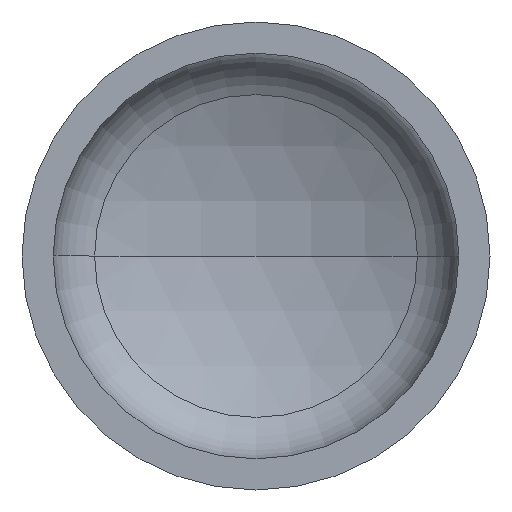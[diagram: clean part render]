
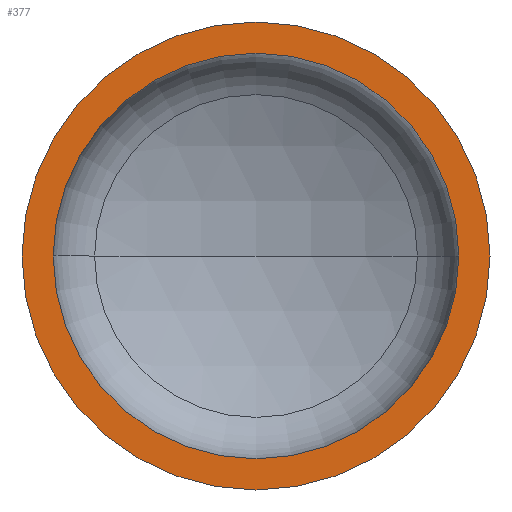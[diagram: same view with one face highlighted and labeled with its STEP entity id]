
A CAD part, front view. The second image highlights one B-rep face of the part: STEP entity #377.
In plain terms, the highlighted planar face has unit normal (0, -1, 0).
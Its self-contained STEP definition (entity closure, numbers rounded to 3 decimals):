
#7 = EDGE_LOOP ( 'NONE', ( #149, #351 ) ) ;
#17 = AXIS2_PLACEMENT_3D ( 'NONE', #408, #143, #276 ) ;
#21 = ORIENTED_EDGE ( 'NONE', *, *, #171, .F. ) ;
#23 = VERTEX_POINT ( 'NONE', #273 ) ;
#35 = VERTEX_POINT ( 'NONE', #243 ) ;
#38 = EDGE_LOOP ( 'NONE', ( #21, #48 ) ) ;
#48 = ORIENTED_EDGE ( 'NONE', *, *, #368, .F. ) ;
#62 = VERTEX_POINT ( 'NONE', #254 ) ;
#91 = VERTEX_POINT ( 'NONE', #245 ) ;
#109 = DIRECTION ( 'NONE',  ( 0., 1., 0. ) ) ;
#116 = CIRCLE ( 'NONE', #130, 390. ) ;
#130 = AXIS2_PLACEMENT_3D ( 'NONE', #223, #219, #220 ) ;
#134 = AXIS2_PLACEMENT_3D ( 'NONE', #315, #309, #233 ) ;
#136 = CIRCLE ( 'NONE', #173, 450. ) ;
#143 = DIRECTION ( 'NONE',  ( 0., -1., 0. ) ) ;
#147 = FACE_BOUND ( 'NONE', #38, .T. ) ;
#149 = ORIENTED_EDGE ( 'NONE', *, *, #385, .T. ) ;
#169 = EDGE_CURVE ( 'NONE', #23, #62, #213, .T. ) ;
#171 = EDGE_CURVE ( 'NONE', #35, #91, #116, .T. ) ;
#173 = AXIS2_PLACEMENT_3D ( 'NONE', #238, #395, #187 ) ;
#187 = DIRECTION ( 'NONE',  ( 1., 0., 0. ) ) ;
#188 = CARTESIAN_POINT ( 'NONE',  ( -450., 0., 0. ) ) ;
#195 = AXIS2_PLACEMENT_3D ( 'NONE', #188, #109, #265 ) ;
#213 = CIRCLE ( 'NONE', #134, 450. ) ;
#215 = FACE_OUTER_BOUND ( 'NONE', #7, .T. ) ;
#219 = DIRECTION ( 'NONE',  ( 0., -1., 0. ) ) ;
#220 = DIRECTION ( 'NONE',  ( 1., 0., 0. ) ) ;
#223 = CARTESIAN_POINT ( 'NONE',  ( 0., 0., 0. ) ) ;
#233 = DIRECTION ( 'NONE',  ( 1., 0., 0. ) ) ;
#238 = CARTESIAN_POINT ( 'NONE',  ( 0., 0., 0. ) ) ;
#243 = CARTESIAN_POINT ( 'NONE',  ( 390., 0., 0. ) ) ;
#245 = CARTESIAN_POINT ( 'NONE',  ( -390., 0., 0. ) ) ;
#254 = CARTESIAN_POINT ( 'NONE',  ( 450., 0., 0. ) ) ;
#265 = DIRECTION ( 'NONE',  ( -1., 0., 0. ) ) ;
#273 = CARTESIAN_POINT ( 'NONE',  ( -450., 0., 0. ) ) ;
#276 = DIRECTION ( 'NONE',  ( 1., 0., 0. ) ) ;
#292 = CIRCLE ( 'NONE', #17, 390. ) ;
#309 = DIRECTION ( 'NONE',  ( 0., -1., 0. ) ) ;
#315 = CARTESIAN_POINT ( 'NONE',  ( 0., 0., 0. ) ) ;
#349 = PLANE ( 'NONE',  #195 ) ;
#351 = ORIENTED_EDGE ( 'NONE', *, *, #169, .T. ) ;
#368 = EDGE_CURVE ( 'NONE', #91, #35, #292, .T. ) ;
#377 = ADVANCED_FACE ( 'NONE', ( #147, #215 ), #349, .F. ) ;
#385 = EDGE_CURVE ( 'NONE', #62, #23, #136, .T. ) ;
#395 = DIRECTION ( 'NONE',  ( 0., -1., 0. ) ) ;
#408 = CARTESIAN_POINT ( 'NONE',  ( 0., 0., 0. ) ) ;
